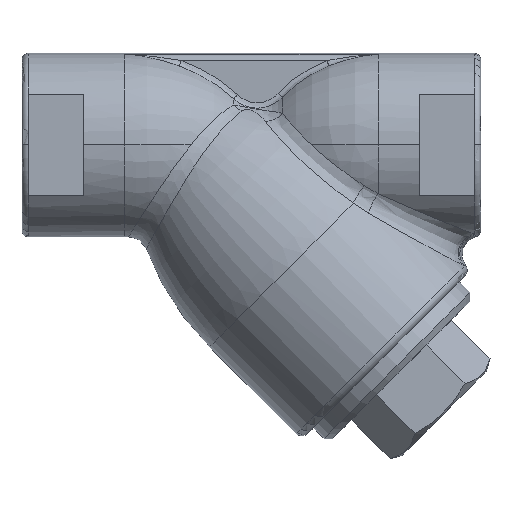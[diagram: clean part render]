
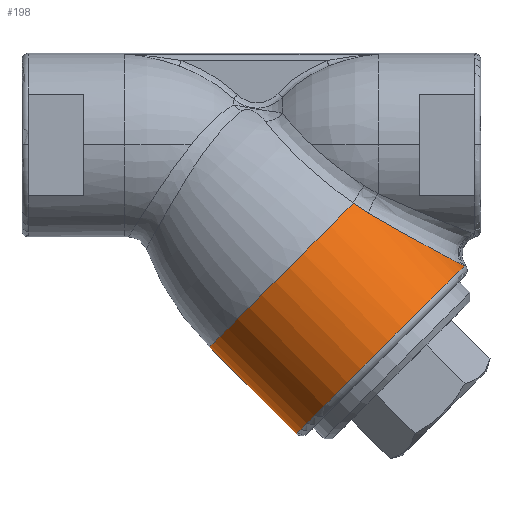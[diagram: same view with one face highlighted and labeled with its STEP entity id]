
A CAD part, top view. The second image highlights one B-rep face of the part: STEP entity #198.
In plain terms, the highlighted cylindrical face has radius 39 mm (diameter 78 mm), a partial arc.
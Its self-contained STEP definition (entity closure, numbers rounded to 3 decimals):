
#7 = CARTESIAN_POINT ( 'NONE',  ( 87.662, -36.16, 13.966 ) ) ;
#8 = VERTEX_POINT ( 'NONE', #1060 ) ;
#198 = ADVANCED_FACE ( 'NONE', ( #4214 ), #878, .T. ) ;
#264 = LINE ( 'NONE', #1817, #3041 ) ;
#329 = CARTESIAN_POINT ( 'NONE',  ( 93.88, -39.44, 6.279 ) ) ;
#347 = CARTESIAN_POINT ( 'NONE',  ( 73.974, -28.698, 22.286 ) ) ;
#363 = CARTESIAN_POINT ( 'NONE',  ( 66.822, -66.822, 0. ) ) ;
#371 = CARTESIAN_POINT ( 'NONE',  ( 91.527, -38.209, 10.004 ) ) ;
#422 = CARTESIAN_POINT ( 'NONE',  ( 68.47, -25.583, 24.563 ) ) ;
#446 = CARTESIAN_POINT ( 'NONE',  ( 72.604, -27.929, 22.882 ) ) ;
#454 = CARTESIAN_POINT ( 'NONE',  ( 59.511, -20.193, 27.355 ) ) ;
#470 = B_SPLINE_CURVE_WITH_KNOTS ( 'NONE', 3,
 ( #1700, #4152, #454, #3420 ),
 .UNSPECIFIED., .F., .F.,
 ( 4, 4 ),
 ( 0., 0.006 ),
 .UNSPECIFIED. ) ;
#495 = DIRECTION ( 'NONE',  ( -0.707, -0.707, 0. ) ) ;
#574 = EDGE_CURVE ( 'NONE', #626, #4440, #3094, .T. ) ;
#579 = EDGE_CURVE ( 'NONE', #8, #1621, #2941, .T. ) ;
#626 = VERTEX_POINT ( 'NONE', #4406 ) ;
#656 = CARTESIAN_POINT ( 'NONE',  ( 93.333, -39.161, 7.326 ) ) ;
#667 = DIRECTION ( 'NONE',  ( -0.707, 0.707, 0. ) ) ;
#725 = EDGE_CURVE ( 'NONE', #3830, #4620, #1797, .T. ) ;
#728 = CARTESIAN_POINT ( 'NONE',  ( 62.878, -22.292, 26.408 ) ) ;
#744 = DIRECTION ( 'NONE',  ( -0.707, 0.707, 0. ) ) ;
#782 = DIRECTION ( 'NONE',  ( -0.707, 0.707, 0. ) ) ;
#802 = ORIENTED_EDGE ( 'NONE', *, *, #2857, .T. ) ;
#803 = CARTESIAN_POINT ( 'NONE',  ( 65.682, -23.968, 25.542 ) ) ;
#821 = EDGE_CURVE ( 'NONE', #4620, #4440, #470, .T. ) ;
#837 = AXIS2_PLACEMENT_3D ( 'NONE', #363, #744, #2942 ) ;
#878 = CYLINDRICAL_SURFACE ( 'NONE', #1888, 39. ) ;
#1054 = CARTESIAN_POINT ( 'NONE',  ( 93.333, -39.161, 7.326 ) ) ;
#1060 = CARTESIAN_POINT ( 'NONE',  ( 39.244, -94.399, 0. ) ) ;
#1095 = CARTESIAN_POINT ( 'NONE',  ( 84.599, -34.521, 16.371 ) ) ;
#1120 = CARTESIAN_POINT ( 'NONE',  ( 89.959, -37.381, 11.795 ) ) ;
#1141 = ORIENTED_EDGE ( 'NONE', *, *, #579, .T. ) ;
#1558 = CARTESIAN_POINT ( 'NONE',  ( 76.691, -30.21, 21.009 ) ) ;
#1621 = VERTEX_POINT ( 'NONE', #3030 ) ;
#1700 = CARTESIAN_POINT ( 'NONE',  ( 62.878, -22.292, 26.408 ) ) ;
#1721 = ORIENTED_EDGE ( 'NONE', *, *, #574, .F. ) ;
#1764 = CARTESIAN_POINT ( 'NONE',  ( 38.446, -38.446, 0. ) ) ;
#1778 = CARTESIAN_POINT ( 'NONE',  ( 94.099, -39.544, 5.731 ) ) ;
#1797 = B_SPLINE_CURVE_WITH_KNOTS ( 'NONE', 3,
 ( #4144, #2630, #4093, #371, #3755, #1120, #4798, #1849, #7, #1920, #1095, #1823, #2581, #3364, #3341, #3776, #1558, #347, #446, #422, #803, #728 ),
 .UNSPECIFIED., .F., .F.,
 ( 4, 2, 2, 2, 2, 2, 2, 2, 2, 2, 4 ),
 ( 0.056, 0.058, 0.061, 0.063, 0.066, 0.071, 0.074, 0.076, 0.081, 0.086, 0.096 ),
 .UNSPECIFIED. ) ;
#1806 = CARTESIAN_POINT ( 'NONE',  ( 93.624, -39.313, 6.816 ) ) ;
#1817 = CARTESIAN_POINT ( 'NONE',  ( -28.1, -27.055, 0. ) ) ;
#1823 = CARTESIAN_POINT ( 'NONE',  ( 82.668, -33.478, 17.647 ) ) ;
#1849 = CARTESIAN_POINT ( 'NONE',  ( 88.255, -36.476, 13.446 ) ) ;
#1888 = AXIS2_PLACEMENT_3D ( 'NONE', #3782, #782, #495 ) ;
#1920 = CARTESIAN_POINT ( 'NONE',  ( 85.853, -35.194, 15.459 ) ) ;
#2093 = EDGE_CURVE ( 'NONE', #8, #626, #264, .T. ) ;
#2220 = ORIENTED_EDGE ( 'NONE', *, *, #2093, .F. ) ;
#2401 = EDGE_LOOP ( 'NONE', ( #2220, #1141, #802, #4258, #2449, #1721 ) ) ;
#2449 = ORIENTED_EDGE ( 'NONE', *, *, #821, .T. ) ;
#2480 = CARTESIAN_POINT ( 'NONE',  ( 57.869, -19.023, 27.685 ) ) ;
#2581 = CARTESIAN_POINT ( 'NONE',  ( 82.014, -33.124, 18.057 ) ) ;
#2630 = CARTESIAN_POINT ( 'NONE',  ( 92.926, -38.946, 8.041 ) ) ;
#2857 = EDGE_CURVE ( 'NONE', #1621, #3830, #3202, .T. ) ;
#2941 = CIRCLE ( 'NONE', #837, 39. ) ;
#2942 = DIRECTION ( 'NONE',  ( 0.707, 0.707, 0. ) ) ;
#3030 = CARTESIAN_POINT ( 'NONE',  ( 94.099, -39.544, 5.731 ) ) ;
#3041 = VECTOR ( 'NONE', #667, 1000. ) ;
#3094 = CIRCLE ( 'NONE', #4426, 39. ) ;
#3202 = B_SPLINE_CURVE_WITH_KNOTS ( 'NONE', 3,
 ( #1778, #329, #1806, #656 ),
 .UNSPECIFIED., .F., .F.,
 ( 4, 4 ),
 ( 0.014, 0.015 ),
 .UNSPECIFIED. ) ;
#3249 = DIRECTION ( 'NONE',  ( -0.707, 0.707, 0. ) ) ;
#3341 = CARTESIAN_POINT ( 'NONE',  ( 80.037, -32.048, 19.228 ) ) ;
#3364 = CARTESIAN_POINT ( 'NONE',  ( 80.699, -32.409, 18.848 ) ) ;
#3420 = CARTESIAN_POINT ( 'NONE',  ( 57.869, -19.023, 27.685 ) ) ;
#3755 = CARTESIAN_POINT ( 'NONE',  ( 91.02, -37.942, 10.618 ) ) ;
#3776 = CARTESIAN_POINT ( 'NONE',  ( 78.038, -30.954, 20.328 ) ) ;
#3782 = CARTESIAN_POINT ( 'NONE',  ( -0.522, 0.522, 0. ) ) ;
#3830 = VERTEX_POINT ( 'NONE', #1054 ) ;
#4093 = CARTESIAN_POINT ( 'NONE',  ( 92.479, -38.712, 8.716 ) ) ;
#4144 = CARTESIAN_POINT ( 'NONE',  ( 93.333, -39.161, 7.326 ) ) ;
#4152 = CARTESIAN_POINT ( 'NONE',  ( 61.183, -21.279, 26.932 ) ) ;
#4214 = FACE_OUTER_BOUND ( 'NONE', #2401, .T. ) ;
#4258 = ORIENTED_EDGE ( 'NONE', *, *, #725, .T. ) ;
#4406 = CARTESIAN_POINT ( 'NONE',  ( 10.869, -66.023, 0. ) ) ;
#4426 = AXIS2_PLACEMENT_3D ( 'NONE', #1764, #3249, #4735 ) ;
#4440 = VERTEX_POINT ( 'NONE', #2480 ) ;
#4620 = VERTEX_POINT ( 'NONE', #4626 ) ;
#4626 = CARTESIAN_POINT ( 'NONE',  ( 62.878, -22.292, 26.408 ) ) ;
#4735 = DIRECTION ( 'NONE',  ( -0.707, -0.707, 0. ) ) ;
#4798 = CARTESIAN_POINT ( 'NONE',  ( 89.405, -37.087, 12.359 ) ) ;
